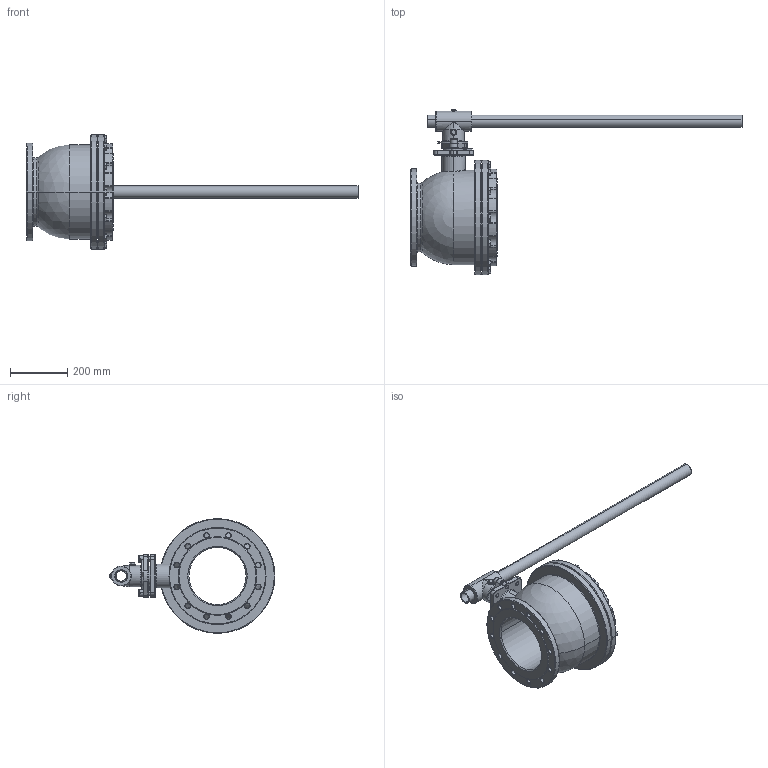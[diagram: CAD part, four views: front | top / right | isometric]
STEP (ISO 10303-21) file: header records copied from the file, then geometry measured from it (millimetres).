
FILE_DESCRIPTION (( 'STEP AP214' ), '1' );
FILE_NAME ('S15F DN200 HB.step', '2011-04-21T13:01:36', ( '' ), ( '' ), 'SwSTEP 2.0', 'SolidWorks 2011', '' );
FILE_SCHEMA (( 'AUTOMOTIVE_DESIGN' ));
Length unit declared in the file: millimetre
Products named in the file (9): circlip for shafts normal_din_Circlip DIN 471 - 50 x 2; hex screw gradeab_din_ISO 4017 - M8 x 16-N; hex screw gradeab_din_ISO 4017 - M10 x 20-N; S15F Handgreep Stang DN200; S15F Handgreep T-stuk DN200; Eindaanslagplaat AS48 SW32; Socket Head Cap Screw_DIN_DIN 912 M16 x 40 --- 40N; S15F KK DN200 PN16; S15F DN200 HB
Assembly tree (9 placements, depth 2):
  S15F DN200 HB
    hex screw gradeab_din_ISO 4017 - M10 x 20-N
    hex screw gradeab_din_ISO 4017 - M8 x 16-N
    S15F Handgreep Stang DN200
    Eindaanslagplaat AS48 SW32
    S15F Handgreep T-stuk DN200
    S15F KK DN200 PN16
    Socket Head Cap Screw_DIN_DIN 912 M16 x 40 --- 40N  x2
    circlip for shafts normal_din_Circlip DIN 471 - 50 x 2
Bounding box: 1162.16 x 580.5 x 402 mm (x, y, z)
Volume: 17869726.9 mm3; surface area: 1385136.6 mm2
Topology: 9 solids, 9 shells, 769 faces, 1831 edges, 1095 vertices
Faces by surface type: cylinder 249, plane 217, torus 187, cone 113, sphere 2, bspline 1
Entity records: 23693 total; most frequent: CARTESIAN_POINT 4549, DIRECTION 4232, ORIENTED_EDGE 3534, EDGE_CURVE 1767, AXIS2_PLACEMENT_3D 1759, VERTEX_POINT 1060, CIRCLE 1006, EDGE_LOOP 845
